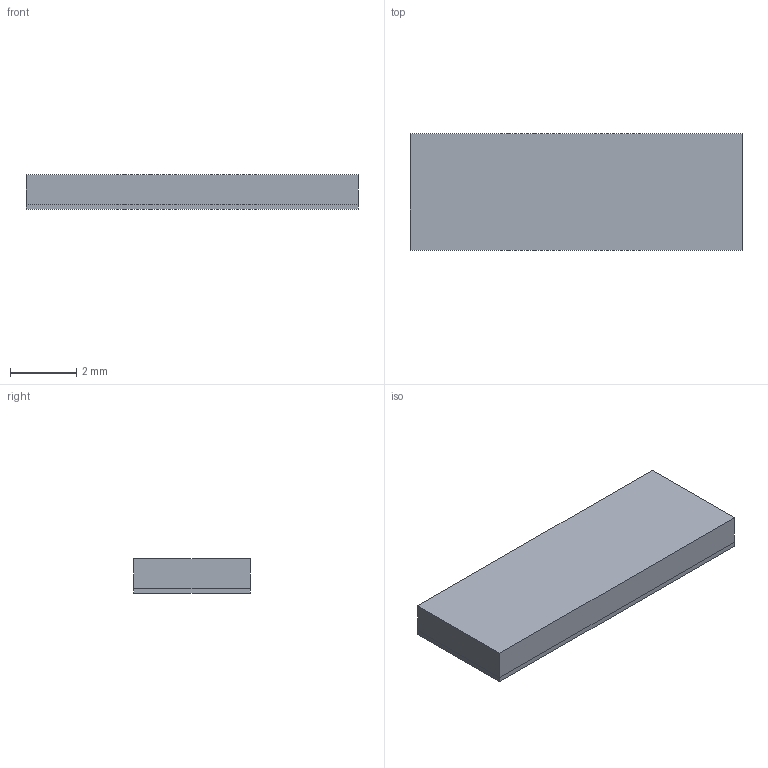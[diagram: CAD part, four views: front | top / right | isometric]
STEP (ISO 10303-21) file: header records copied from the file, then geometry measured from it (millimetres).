
FILE_DESCRIPTION(('FreeCAD Model'),'2;1');
FILE_NAME('Open CASCADE Shape Model','2024-10-09T09:53:21',(''),(''), 'Open CASCADE STEP processor 7.6','FreeCAD','Unknown');
FILE_SCHEMA(('AUTOMOTIVE_DESIGN { 1 0 10303 214 1 1 1 1 }'));
Length unit declared in the file: millimetre
Products named in the file (3): HY0021; PCB; SHIELD
Assembly tree (2 placements, depth 2):
  HY0021
    PCB
    SHIELD
Bounding box: 10 x 3.5 x 1.05 mm (x, y, z)
Volume: 36.8 mm3; surface area: 168.3 mm2
Topology: 2 solids, 2 shells, 12 faces, 24 edges, 16 vertices
Faces by surface type: plane 12
Entity records: 375 total; most frequent: CARTESIAN_POINT 55, DIRECTION 54, ORIENTED_EDGE 48, EDGE_CURVE 24, LINE 24, VECTOR 24, VERTEX_POINT 16, AXIS2_PLACEMENT_3D 15
